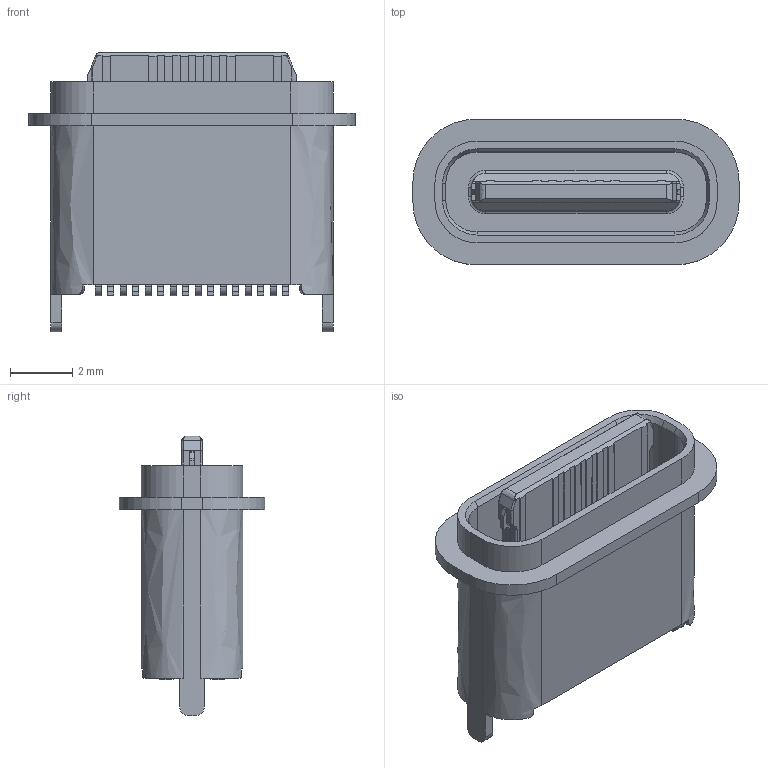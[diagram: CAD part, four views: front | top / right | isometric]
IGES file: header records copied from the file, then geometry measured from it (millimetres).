
Start section:  PTC IGES file: 006.igs
Global section: file name: 006.igs; native system: Creo Parametric by PTC Inc.; preprocessor: 2019080; author: Administrator; organization: Unknown; date: 20230418.091231; units: millimetre
Bounding box: 10.44 x 4.66 x 8.95 mm (x, y, z)
Surface area: 388.7 mm2 (no closed solid volume)
Topology: 0 solids, 0 shells, 428 faces, 2340 edges, 2340 vertices
Faces by surface type: bspline 294, revolution 134
